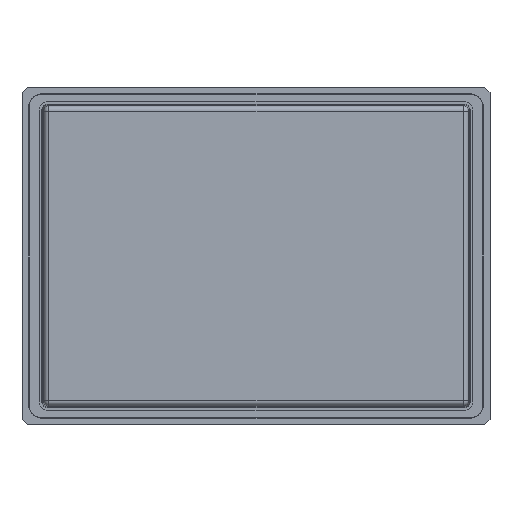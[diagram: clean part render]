
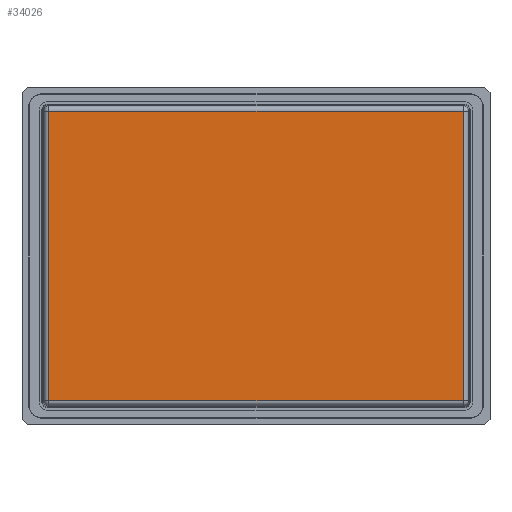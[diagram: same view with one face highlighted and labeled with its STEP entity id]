
A CAD part, front view. The second image highlights one B-rep face of the part: STEP entity #34026.
In plain terms, the highlighted planar face has unit normal (0, -1, 0) as drawn and (0, 1, 0) by its records, which use the part's own axes.
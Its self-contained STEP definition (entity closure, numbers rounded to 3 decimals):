
#1279 = EDGE_CURVE ( 'NONE', #29064, #45087, #59741, .T. ) ;
#3380 = DIRECTION ( 'NONE',  ( 0., 0., 1. ) ) ;
#6632 = ORIENTED_EDGE ( 'NONE', *, *, #14483, .T. ) ;
#8462 = VECTOR ( 'NONE', #57480, 1000. ) ;
#8792 = EDGE_CURVE ( 'NONE', #51800, #45586, #46755, .T. ) ;
#11017 = CARTESIAN_POINT ( 'NONE',  ( 81.449, 8.6, 55.651 ) ) ;
#11918 = ORIENTED_EDGE ( 'NONE', *, *, #60152, .T. ) ;
#12034 = VECTOR ( 'NONE', #3380, 1000. ) ;
#14392 = LINE ( 'NONE', #45386, #51398 ) ;
#14483 = EDGE_CURVE ( 'NONE', #45586, #29064, #14392, .T. ) ;
#17890 = FACE_OUTER_BOUND ( 'NONE', #63615, .T. ) ;
#23337 = VECTOR ( 'NONE', #32477, 1000. ) ;
#28348 = CARTESIAN_POINT ( 'NONE',  ( -81.9, 8.6, 58. ) ) ;
#29064 = VERTEX_POINT ( 'NONE', #45376 ) ;
#29680 = DIRECTION ( 'NONE',  ( 0., 1., 0. ) ) ;
#32477 = DIRECTION ( 'NONE',  ( -1., 0., 0. ) ) ;
#33133 = CARTESIAN_POINT ( 'NONE',  ( 79.551, 8.6, 55.651 ) ) ;
#34026 = ADVANCED_FACE ( 'NONE', ( #17890 ), #38426, .T. ) ;
#34300 = DIRECTION ( 'NONE',  ( 0., 0., -1. ) ) ;
#34769 = CARTESIAN_POINT ( 'NONE',  ( -79.551, 8.6, 57.549 ) ) ;
#38426 = PLANE ( 'NONE',  #55355 ) ;
#38746 = CARTESIAN_POINT ( 'NONE',  ( -79.551, 8.6, 55.651 ) ) ;
#38905 = CARTESIAN_POINT ( 'NONE',  ( -79.551, 8.6, -55.651 ) ) ;
#41450 = ORIENTED_EDGE ( 'NONE', *, *, #8792, .T. ) ;
#43582 = CARTESIAN_POINT ( 'NONE',  ( -81.449, 8.6, -55.651 ) ) ;
#45087 = VERTEX_POINT ( 'NONE', #38905 ) ;
#45376 = CARTESIAN_POINT ( 'NONE',  ( 79.551, 8.6, -55.651 ) ) ;
#45386 = CARTESIAN_POINT ( 'NONE',  ( 79.551, 8.6, -57.549 ) ) ;
#45586 = VERTEX_POINT ( 'NONE', #33133 ) ;
#46755 = LINE ( 'NONE', #11017, #8462 ) ;
#48861 = DIRECTION ( 'NONE',  ( 0., 0., 1. ) ) ;
#51398 = VECTOR ( 'NONE', #34300, 1000. ) ;
#51800 = VERTEX_POINT ( 'NONE', #38746 ) ;
#55355 = AXIS2_PLACEMENT_3D ( 'NONE', #28348, #29680, #48861 ) ;
#57480 = DIRECTION ( 'NONE',  ( 1., 0., 0. ) ) ;
#59741 = LINE ( 'NONE', #43582, #23337 ) ;
#60152 = EDGE_CURVE ( 'NONE', #45087, #51800, #60690, .T. ) ;
#60532 = ORIENTED_EDGE ( 'NONE', *, *, #1279, .T. ) ;
#60690 = LINE ( 'NONE', #34769, #12034 ) ;
#63615 = EDGE_LOOP ( 'NONE', ( #6632, #60532, #11918, #41450 ) ) ;
